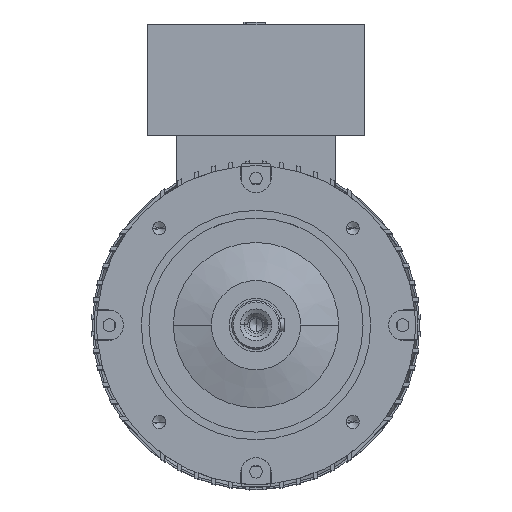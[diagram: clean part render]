
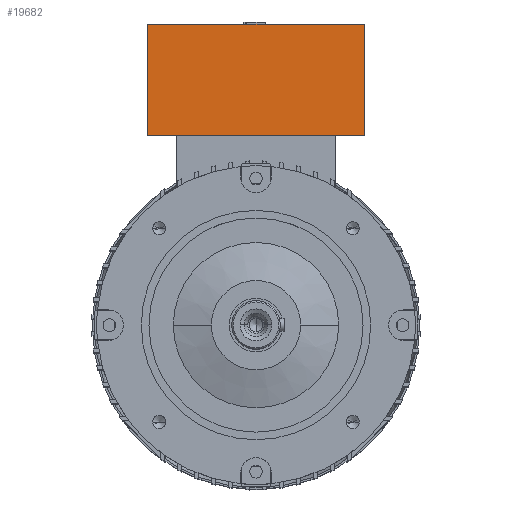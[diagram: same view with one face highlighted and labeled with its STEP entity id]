
A CAD part, top view. The second image highlights one B-rep face of the part: STEP entity #19682.
In plain terms, the highlighted planar face has unit normal (0, 0, 1).
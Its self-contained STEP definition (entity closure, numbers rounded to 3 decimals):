
#1542 = CARTESIAN_POINT ( 'NONE',  ( 85., 149., 134. ) ) ;
#1568 = DIRECTION ( 'NONE',  ( 0., -1., 0. ) ) ;
#2512 = VECTOR ( 'NONE', #6927, 1000. ) ;
#2826 = DIRECTION ( 'NONE',  ( 1., 0., 0. ) ) ;
#2959 = CARTESIAN_POINT ( 'NONE',  ( -85., 149., 134. ) ) ;
#2965 = DIRECTION ( 'NONE',  ( 0., 0., 1. ) ) ;
#3085 = CARTESIAN_POINT ( 'NONE',  ( 85., 236., 134. ) ) ;
#3329 = EDGE_CURVE ( 'NONE', #22305, #12526, #20200, .T. ) ;
#5034 = CARTESIAN_POINT ( 'NONE',  ( 85., 236., 134. ) ) ;
#5610 = VECTOR ( 'NONE', #20798, 1000. ) ;
#6178 = LINE ( 'NONE', #19216, #5610 ) ;
#6208 = EDGE_LOOP ( 'NONE', ( #9772, #16786, #14349, #21487 ) ) ;
#6927 = DIRECTION ( 'NONE',  ( 0., 1., 0. ) ) ;
#7058 = VECTOR ( 'NONE', #18292, 1000. ) ;
#7073 = LINE ( 'NONE', #15456, #13360 ) ;
#7632 = AXIS2_PLACEMENT_3D ( 'NONE', #13323, #2965, #2826 ) ;
#8894 = VERTEX_POINT ( 'NONE', #21386 ) ;
#9495 = VERTEX_POINT ( 'NONE', #2959 ) ;
#9687 = EDGE_CURVE ( 'NONE', #12526, #8894, #19609, .T. ) ;
#9772 = ORIENTED_EDGE ( 'NONE', *, *, #19306, .T. ) ;
#12526 = VERTEX_POINT ( 'NONE', #3085 ) ;
#13323 = CARTESIAN_POINT ( 'NONE',  ( -85., 236., 134. ) ) ;
#13360 = VECTOR ( 'NONE', #1568, 1000. ) ;
#14349 = ORIENTED_EDGE ( 'NONE', *, *, #3329, .T. ) ;
#14880 = CARTESIAN_POINT ( 'NONE',  ( -85., 236., 134. ) ) ;
#15456 = CARTESIAN_POINT ( 'NONE',  ( -85., 236., 134. ) ) ;
#15637 = EDGE_CURVE ( 'NONE', #22305, #9495, #6178, .T. ) ;
#16786 = ORIENTED_EDGE ( 'NONE', *, *, #15637, .F. ) ;
#18292 = DIRECTION ( 'NONE',  ( -1., 0., 0. ) ) ;
#19216 = CARTESIAN_POINT ( 'NONE',  ( 85., 149., 134. ) ) ;
#19306 = EDGE_CURVE ( 'NONE', #8894, #9495, #7073, .T. ) ;
#19609 = LINE ( 'NONE', #14880, #7058 ) ;
#19682 = ADVANCED_FACE ( 'NONE', ( #22314 ), #22122, .T. ) ;
#20200 = LINE ( 'NONE', #5034, #2512 ) ;
#20798 = DIRECTION ( 'NONE',  ( -1., 0., 0. ) ) ;
#21386 = CARTESIAN_POINT ( 'NONE',  ( -85., 236., 134. ) ) ;
#21487 = ORIENTED_EDGE ( 'NONE', *, *, #9687, .T. ) ;
#22122 = PLANE ( 'NONE',  #7632 ) ;
#22305 = VERTEX_POINT ( 'NONE', #1542 ) ;
#22314 = FACE_OUTER_BOUND ( 'NONE', #6208, .T. ) ;
